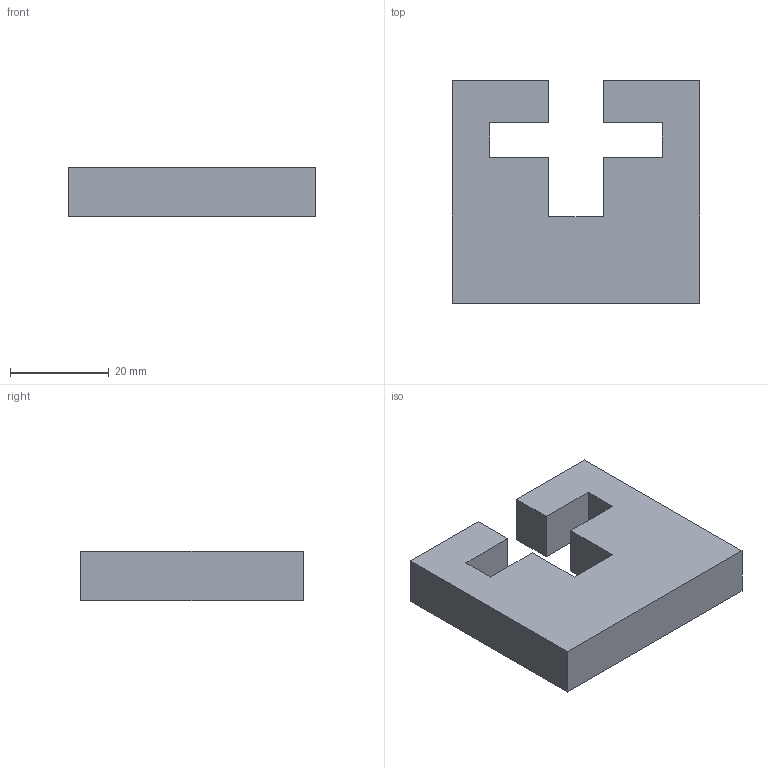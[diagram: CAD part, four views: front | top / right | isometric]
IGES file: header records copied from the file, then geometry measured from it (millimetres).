
Start section: SolidWorks IGES file using analytic representation for surfaces
Global section: file name: C:\Documents and Settings\ARGE\Desktop\yeni katalog tolgay düzenli\E kataloðu\ALPOLEN 1000 GHE SIRALI ZÝNCÝR KIZAKLARI\207 GHE 150.IGS; native system: SolidWorks 2006 by SolidWorks Corporation; preprocessor: SolidWorks 2006 by SolidWorks Corporation; author: ARGE2; date: 060912.175640; units: millimetre
Bounding box: 50 x 45 x 10 mm (x, y, z)
Surface area: 6489 mm2 (no closed solid volume)
Topology: 0 solids, 0 shells, 18 faces, 96 edges, 96 vertices
Faces by surface type: bspline 18
